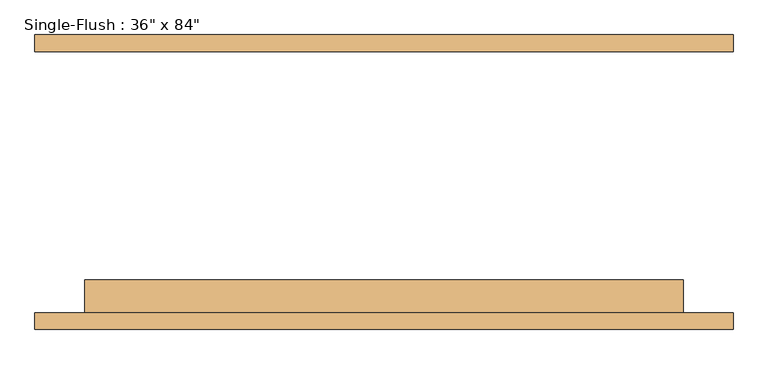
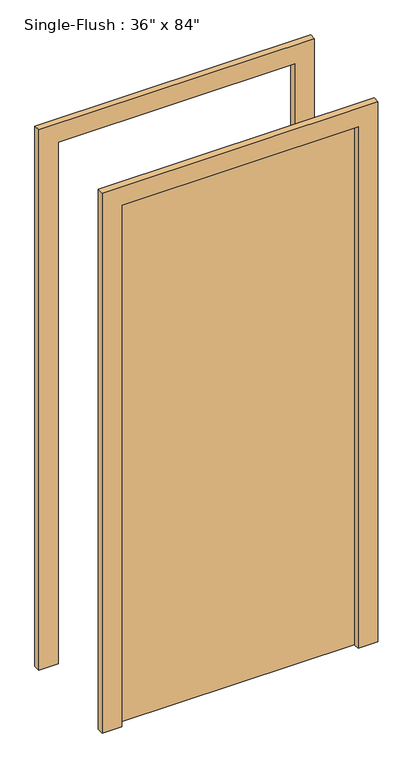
"""IFC4 building model written with IfcOpenShell, lengths in millimetres: door geometry."""

import ifcopenshell
import ifcopenshell.guid

model = None  # the IFC model being written
_history = None  # IfcOwnerHistory: only IFC2X3 demands one
_inside = {}  # id of a spatial element -> (the spatial element, [elements in it])
_under = {}  # id of a project, library or spatial element -> (it, [spatial elements below it])
_declared = {}  # id of a project -> (the project, [libraries it declares])
_typed = {}  # id of a type object -> (the type object, [elements of that type])
_made_of = {}  # id of a material, layer set ... -> (it, [elements and type objects made of it])


def new_model(schema):
    """Start an empty IFC model of exactly this schema.

    Asked for "IFC4X3", IfcOpenShell would pick the latest addendum, in which some entities
    have other attributes; the version numbers below select the first issue.
    IFC2X3 requires an IfcOwnerHistory on every rooted entity: one is made here for all.
    """
    global model, _history
    if schema == "IFC4X3":
        model = ifcopenshell.file(schema_version=(4, 3, 0, 0))
    else:
        model = ifcopenshell.file(schema=schema)
    _inside.clear()
    _under.clear()
    _declared.clear()
    _typed.clear()
    _made_of.clear()
    _history = None
    if model.schema == "IFC2X3":
        org = make("IfcOrganization", Name="unknown")
        user = make(
            "IfcPersonAndOrganization",
            ThePerson=make("IfcPerson", FamilyName="unknown"),
            TheOrganization=org,
        )
        app = make(
            "IfcApplication",
            ApplicationDeveloper=org,
            Version="unknown",
            ApplicationFullName="unknown",
            ApplicationIdentifier="unknown",
        )
        _history = make(
            "IfcOwnerHistory",
            OwningUser=user,
            OwningApplication=app,
            ChangeAction="ADDED",
            CreationDate=0,
        )
    return model


def make(cls, **values):
    """One entity of the class cls with the attributes given. An attribute that is None is left unset."""
    return model.create_entity(
        cls, **{name: value for name, value in values.items() if value is not None}
    )


def rooted(cls, **values):
    """An entity with a GlobalId (a new one), such as an element, a storey or a relation."""
    return make(cls, GlobalId=ifcopenshell.guid.new(), OwnerHistory=_history, **values)


def si_unit(unit_type, name, prefix=None):
    """IfcSIUnit, for example si_unit("LENGTHUNIT", "METRE", prefix="MILLI")."""
    return make("IfcSIUnit", UnitType=unit_type, Prefix=prefix, Name=name)


def assignment(units):
    """IfcUnitAssignment: the units of a project."""
    return None if units is None else make("IfcUnitAssignment", Units=units)


def point(xyz):
    """IfcCartesianPoint."""
    return None if xyz is None else make("IfcCartesianPoint", Coordinates=xyz)


def direction(xyz):
    """IfcDirection."""
    return None if xyz is None else make("IfcDirection", DirectionRatios=xyz)


def frame(location, z_axis=None, x_axis=None):
    """IfcAxis2Placement3D, a coordinate frame: its origin and axes. An axis left out is left unset."""
    return make(
        "IfcAxis2Placement3D",
        Location=point(location),
        Axis=direction(z_axis),
        RefDirection=direction(x_axis),
    )


def origin():
    """The frame at (0, 0, 0) with its axes left unset."""
    return frame((0.0, 0.0, 0.0))


def origin_with_axes():
    """The frame at (0, 0, 0) with the z axis (0, 0, 1) and the x axis (1, 0, 0) written out."""
    return frame((0.0, 0.0, 0.0), z_axis=(0.0, 0.0, 1.0), x_axis=(1.0, 0.0, 0.0))


def place(relative_to, where):
    """IfcLocalPlacement: puts the frame where relative to a parent placement (None: the world)."""
    return make(
        "IfcLocalPlacement", PlacementRelTo=relative_to, RelativePlacement=where
    )


def context(
    kind, dimensions, precision=None, world=None, true_north=None, identifier=None
):
    """IfcGeometricRepresentationContext, for example the 3D "Model" context."""
    return make(
        "IfcGeometricRepresentationContext",
        ContextIdentifier=identifier,
        ContextType=kind,
        CoordinateSpaceDimension=dimensions,
        Precision=precision,
        WorldCoordinateSystem=world,
        TrueNorth=true_north,
    )


def project(units=None, contexts=None):
    """IfcProject with its units and contexts."""
    return rooted(
        "IfcProject",
        Name="project",
        RepresentationContexts=contexts,
        UnitsInContext=assignment(units),
    )


def spatial(cls, under=None, at=None, **own):
    """A site, building, storey or space (cls), placed at a placement, below another one or the project."""
    s = rooted(cls, ObjectPlacement=at, **own)
    if under is not None:
        _under.setdefault(under.id(), (under, []))[1].append(s)
    return s


def polyline(points):
    """IfcPolyline through the points."""
    return make("IfcPolyline", Points=[point(p) for p in points])


def outline(outer, holes=None, kind="AREA"):
    """IfcArbitraryClosedProfileDef: a profile drawn as a closed curve; with holes, ...WithVoids."""
    if holes is None:
        return make("IfcArbitraryClosedProfileDef", ProfileType=kind, OuterCurve=outer)
    return make(
        "IfcArbitraryProfileDefWithVoids",
        ProfileType=kind,
        OuterCurve=outer,
        InnerCurves=holes,
    )


def extrude(swept, where, along, depth):
    """IfcExtrudedAreaSolid: the profile swept, set in the frame where, extruded along a direction by depth."""
    return make(
        "IfcExtrudedAreaSolid",
        SweptArea=swept,
        Position=where,
        ExtrudedDirection=direction(along),
        Depth=depth,
    )


def shape(context_of_items, identifier, shape_type, items):
    """IfcShapeRepresentation: the items that make up one representation, for example the "Body"."""
    return make(
        "IfcShapeRepresentation",
        ContextOfItems=context_of_items,
        RepresentationIdentifier=identifier,
        RepresentationType=shape_type,
        Items=items,
    )


def source(mapping_origin, context_of_items, identifier, shape_type, items):
    """IfcRepresentationMap: a shape defined once, which mapped items show again and again."""
    return make(
        "IfcRepresentationMap",
        MappingOrigin=mapping_origin,
        MappedRepresentation=shape(context_of_items, identifier, shape_type, items),
    )


def transform(
    local_origin,
    x_axis=None,
    y_axis=None,
    z_axis=None,
    scale=None,
    scale2=None,
    scale3=None,
    uniform=True,
):
    """IfcCartesianTransformationOperator3D, or its non-uniform kind. x_axis, y_axis, z_axis: its Axis1, 2, 3."""
    if uniform:
        return make(
            "IfcCartesianTransformationOperator3D",
            Axis1=direction(x_axis),
            Axis2=direction(y_axis),
            LocalOrigin=point(local_origin),
            Scale=scale,
            Axis3=direction(z_axis),
        )
    return make(
        "IfcCartesianTransformationOperator3DnonUniform",
        Axis1=direction(x_axis),
        Axis2=direction(y_axis),
        LocalOrigin=point(local_origin),
        Scale=scale,
        Axis3=direction(z_axis),
        Scale2=scale2,
        Scale3=scale3,
    )


def mapped(mapping_source, mapping_target):
    """IfcMappedItem: shows the shape of a source again, moved by a transform."""
    return make(
        "IfcMappedItem", MappingSource=mapping_source, MappingTarget=mapping_target
    )


def made_of(thing, what):
    """Note that an element or type object is made of a material, layer set ...; save() writes the relation."""
    if what is not None:
        _made_of.setdefault(what.id(), (what, []))[1].append(thing)
    return thing


def element(
    cls,
    number,
    at=None,
    inside=None,
    cuts=None,
    type_object=None,
    material=None,
    context=None,
    identifier="Body",
    shape_type=None,
    held_by="IfcProductDefinitionShape",
    body=None,
    shapes=None,
    **own,
):
    """One element of the class cls, such as IfcWall. Its Tag is "e" and its number.

    at: its placement. inside: the storey or other place that contains it. cuts: it is an
    opening in that element (IfcRelVoidsElement). A single representation is given by context,
    identifier, shape_type and body (its items); several are given by shapes. held_by: the class
    of the entity that holds the representations. save() writes the other relations.
    """
    e = rooted(cls, Tag="e%d" % number, ObjectPlacement=at, **own)
    if body is not None:
        shapes = [shape(context, identifier, shape_type, body)]
    if shapes is not None:
        e.Representation = make(held_by, Representations=shapes)
    if inside is not None:
        _inside.setdefault(inside.id(), (inside, []))[1].append(e)
    if cuts is not None:
        rooted(
            "IfcRelVoidsElement", RelatingBuildingElement=cuts, RelatedOpeningElement=e
        )
    if type_object is not None:
        _typed.setdefault(type_object.id(), (type_object, []))[1].append(e)
    return made_of(e, material)


def aggregate(whole, parts):
    """IfcRelAggregates: a whole, such as a stair, and the parts it consists of."""
    return rooted("IfcRelAggregates", RelatingObject=whole, RelatedObjects=parts)


def save(model, path):
    """Write the relations noted so far, then the file.

    IfcRelAggregates (storeys below a building ...), IfcRelContainedInSpatialStructure (elements
    in a storey), IfcRelDefinesByType, IfcRelAssociatesMaterial and IfcRelDeclares: one each for
    every whole, place, type object, material and project.
    """
    for whole, parts in _under.values():
        aggregate(whole, parts)
    for where, things in _inside.values():
        rooted(
            "IfcRelContainedInSpatialStructure",
            RelatedElements=things,
            RelatingStructure=where,
        )
    for kind, things in _typed.values():
        rooted("IfcRelDefinesByType", RelatedObjects=things, RelatingType=kind)
    for what, things in _made_of.values():
        rooted("IfcRelAssociatesMaterial", RelatedObjects=things, RelatingMaterial=what)
    for by, libraries in _declared.values():
        rooted("IfcRelDeclares", RelatingContext=by, RelatedDefinitions=libraries)
    model.write(path)


def door_02a4db38(model_context):
    return source(origin(), model_context, "Body", "SweptSolid", [
        extrude(outline(polyline([(2209.8, -533.4), (0.0, -533.4), (0.0, -457.2), (2133.6, -457.2), (2133.6, 457.2), (0.0, 457.2), (0.0, 533.4), (2209.8, 533.4), (2209.8, -533.4)])), frame((0.0, -225.4, 0.0), z_axis=(0.0, 1.0, 0.0), x_axis=(0.0, 0.0, 1.0)), (0.0, 0.0, 1.0), 25.4),
        extrude(outline(polyline([(2209.8, 533.4), (2209.8, -533.4), (0.0, -533.4), (0.0, -457.2), (2133.6, -457.2), (2133.6, 457.2), (0.0, 457.2), (0.0, 533.4), (2209.8, 533.4)])), frame((0.0, 200.0, 0.0), z_axis=(0.0, 1.0, 0.0), x_axis=(0.0, 0.0, 1.0)), (0.0, 0.0, 1.0), 25.4),
        extrude(outline(polyline([(457.2, -149.2), (457.2, -200.0), (-457.2, -200.0), (-457.2, -149.2), (457.2, -149.2)])), origin_with_axes(), (0.0, 0.0, 1.0), 2133.6),
    ])


if __name__ == "__main__":
    model = new_model("IFC4")
    model_context = context("Model", 3, world=origin())
    ifc_project = project(units=[si_unit("LENGTHUNIT", "METRE", prefix="MILLI")], contexts=[model_context])
    site = spatial("IfcSite", under=ifc_project)
    building = spatial("IfcBuilding", under=site)
    placement = place(None, origin())
    door_shape = door_02a4db38(model_context)
    element("IfcDoor", 1, ObjectType="Single-Flush : 36\" x 84\"", at=placement, inside=building, context=model_context, shape_type="MappedRepresentation", body=[
        mapped(door_shape, transform((0.0, 0.0, 0.0), x_axis=(1.0, 0.0, 0.0), y_axis=(0.0, 1.0, 0.0), z_axis=(0.0, 0.0, 1.0))),
    ])
    save(model, "model.ifc")
